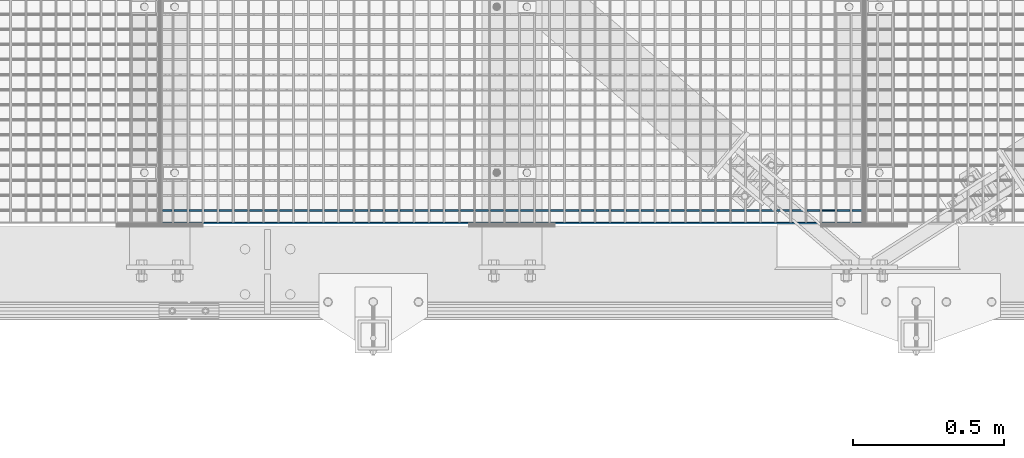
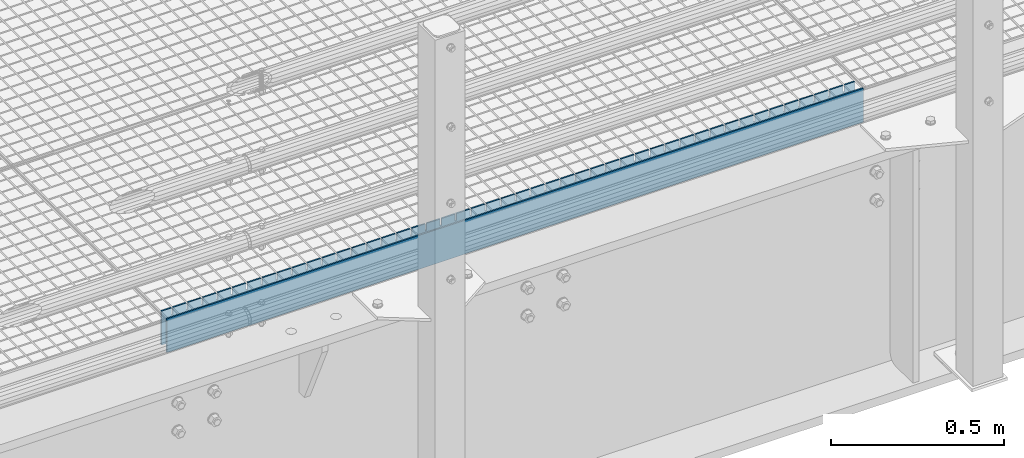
# One storey, part 180 of 1530: 2 beams.
"""IFC2X3 building model written with IfcOpenShell, lengths in millimetres."""

from ifc_helpers import new_model, si_unit, frame, origin_with_axes, place, context, subcontext, project, spatial, faceted_brep, material, type_object, element, save


model = new_model("IFC2X3")

# Units and contexts
model_context = context("Model", 3, precision=1e-05, world=origin_with_axes())
body_context = subcontext(model_context, "Body", "Model", "MODEL_VIEW")
ifc_project = project(units=[si_unit("LENGTHUNIT", "METRE", prefix="MILLI"), si_unit("AREAUNIT", "SQUARE_METRE"), si_unit("VOLUMEUNIT", "CUBIC_METRE"), si_unit("MASSUNIT", "GRAM", prefix="KILO"), si_unit("TIMEUNIT", "SECOND"), si_unit("PLANEANGLEUNIT", "RADIAN"), si_unit("SOLIDANGLEUNIT", "STERADIAN"), si_unit("THERMODYNAMICTEMPERATUREUNIT", "DEGREE_CELSIUS"), si_unit("LUMINOUSINTENSITYUNIT", "LUMEN")], contexts=[model_context])

# Site, building, storey
site_placement = place(None, origin_with_axes())
site = spatial("IfcSite", under=ifc_project, at=site_placement, Name="Brattvåg", CompositionType="ELEMENT")
building_placement = place(site_placement, origin_with_axes())
building = spatial("IfcBuilding", under=site, at=building_placement, Name="Undefined", CompositionType="ELEMENT")
storey_placement = place(building_placement, origin_with_axes())
storey = spatial("IfcBuildingStorey", under=building, at=storey_placement, Name="Undefined", CompositionType="ELEMENT", Elevation=0.0)

# Beams
ifc_material = material(Name="STEEL/S355J2")
beam_type = type_object("IfcBeamType", Name="120*5", PredefinedType="NOTDEFINED")
beam_1_placement = place(storey_placement, frame((7570.01317977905, 202.994873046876, -59.9998626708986), z_axis=(0.0, 0.0, 1.0), x_axis=(-1.0, 1.99999855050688e-09, 0.0)))
element("IfcBeam", 1, at=beam_1_placement, inside=storey, type_object=beam_type, material=ifc_material, Name="GRATING", context=body_context, shape_type="Brep", body=[
    faceted_brep([(83.5790367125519, -2.50000000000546, 60.0000722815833), (83.5790367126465, -2.50000000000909, 35.0001373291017), (83.5790367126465, 2.50022888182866, 35.0001373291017), (83.5790367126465, 2.5, 60.0), (88.5790367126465, -2.50000000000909, 35.0001373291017), (88.5790367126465, 2.50022888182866, 35.0001373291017), (88.5790367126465, -2.50000000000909, 60.0001373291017), (88.5790367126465, 2.5, 60.0), (38.6284370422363, -2.50000000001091, 60.0001373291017), (38.6284370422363, 2.5, 60.0), (38.6284370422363, 2.49999999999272, 35.0001373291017), (38.6284370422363, -2.50000000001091, 35.0001373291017), (33.6284370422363, 2.49999999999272, 35.0001373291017), (33.6284370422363, -2.50000000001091, 35.0001373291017), (33.6284370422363, -2.5, 60.0), (33.6284370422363, 2.5, 60.0), (0.0, 2.5, 60.0), (0.0, -2.5, 60.0), (0.0, -2.5, -60.0), (0.0, 2.5, -60.0), (2319.99865722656, 2.5, -60.0), (2319.99865722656, -2.5, -60.0), (2319.99865722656, -2.5, 60.0), (2319.99865722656, 2.5, 60.0), (2286.37871932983, 2.5, 60.0), (2286.37871932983, -2.50000000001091, 60.0001373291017), (2286.37871932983, 2.49999999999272, 35.0001373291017), (2286.37871932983, -2.50000000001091, 35.0001373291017), (2281.37871932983, 2.49999999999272, 35.0001373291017), (2281.37871932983, -2.50000000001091, 35.0001373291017), (2281.37871932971, -2.50000000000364, 60.0000634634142), (2281.37871932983, 2.5, 60.0), (2236.42859649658, 2.5, 60.0), (2236.42859649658, -2.50000000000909, 60.0001373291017), (2236.42859649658, 2.50022888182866, 35.0001373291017), (2236.42859649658, -2.50000000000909, 35.0001373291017), (2231.42859649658, 2.50022888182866, 35.0001373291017), (2231.42859649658, -2.50000000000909, 35.0001373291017), (2231.42859649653, -2.50000000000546, 60.0000910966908), (2231.42859649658, 2.5, 60.0), (2186.47847366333, 2.5, 60.0), (2186.47847366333, -2.50000000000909, 60.0001373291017), (2186.47847366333, 2.50022888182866, 35.0001373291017), (2186.47847366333, -2.50000000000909, 35.0001373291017), (2181.47847366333, 2.50022888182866, 35.0001373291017), (2181.47847366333, -2.50000000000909, 35.0001373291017), (2181.47847366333, -2.5, 60.0), (2181.47847366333, 2.5, 60.0), (2136.52882766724, 2.5, 60.0), (2136.52882766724, -2.50000000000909, 60.0001373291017), (2136.52882766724, 2.50022888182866, 35.0001373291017), (2136.52882766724, -2.50000000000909, 35.0001373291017), (2131.52882766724, 2.50022888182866, 35.0001373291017), (2131.52882766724, -2.50000000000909, 35.0001373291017), (2131.52882766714, -2.50000000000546, 60.0000722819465), (2131.52882766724, 2.5, 60.0), (2086.57870483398, 2.5, 60.0), (2086.57870483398, -2.50000000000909, 60.0001373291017), (2086.57870483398, 2.50022888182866, 35.0001373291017), (2086.57870483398, -2.50000000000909, 35.0001373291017), (2081.57870483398, 2.50022888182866, 35.0001373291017), (2081.57870483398, -2.50000000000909, 35.0001373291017), (2081.57870483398, -2.5, 60.0), (2081.57870483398, 2.5, 60.0), (2036.62858200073, 2.5, 60.0), (2036.62858200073, -2.50000000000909, 60.0001373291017), (2036.62858200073, 2.50022888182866, 35.0001373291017), (2036.62858200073, -2.50000000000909, 35.0001373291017), (2031.62858200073, 2.50022888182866, 35.0001373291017), (2031.62858200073, -2.50000000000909, 35.0001373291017), (2031.62858200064, -2.50000000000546, 60.0000722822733), (2031.62858200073, 2.5, 60.0), (1986.67845916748, 2.5, 60.0), (1986.67845916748, -2.50000000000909, 60.0001373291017), (1986.67845916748, 2.50022888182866, 35.0001373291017), (1986.67845916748, -2.50000000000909, 35.0001373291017), (1981.67845916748, 2.50022888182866, 35.0001373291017), (1981.67845916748, -2.50000000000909, 35.0001373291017), (1981.67845916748, -2.5, 60.0), (1981.67845916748, 2.5, 60.0), (1936.72881317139, 2.5, 60.0), (1936.72881317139, -2.50000000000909, 60.0001373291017), (1936.72881317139, 2.50022888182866, 35.0001373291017), (1936.72881317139, -2.50000000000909, 35.0001373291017), (1931.72881317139, 2.50022888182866, 35.0001373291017), (1931.72881317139, -2.50000000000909, 35.0001373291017), (1931.72881317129, -2.50000000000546, 60.0000722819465), (1931.72881317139, 2.5, 60.0), (1886.77869033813, 2.5, 60.0), (1886.77869033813, -2.50000000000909, 60.0001373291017), (1886.77869033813, 2.50022888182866, 35.0001373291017), (1886.77869033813, -2.50000000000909, 35.0001373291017), (1881.77869033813, 2.50022888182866, 35.0001373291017), (1881.77869033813, -2.50000000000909, 35.0001373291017), (1881.77869033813, -2.5, 60.0), (1881.77869033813, 2.5, 60.0), (1836.82856750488, 2.5, 60.0), (1836.82856750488, -2.50000000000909, 60.0001373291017), (1836.82856750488, 2.50022888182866, 35.0001373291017), (1836.82856750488, -2.50000000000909, 35.0001373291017), (1831.82856750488, 2.50022888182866, 35.0001373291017), (1831.82856750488, -2.50000000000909, 35.0001373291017), (1831.82856750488, -2.5, 60.0), (1831.82856750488, 2.5, 60.0), (1786.87892150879, 2.5, 60.0), (1786.87892150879, -2.50000000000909, 60.0001373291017), (1786.87892150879, 2.50022888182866, 35.0001373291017), (1786.87892150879, -2.50000000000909, 35.0001373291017), (1781.87892150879, 2.50022888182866, 35.0001373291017), (1781.87892150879, -2.50000000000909, 35.0001373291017), (1781.87892150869, -2.50000000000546, 60.0000722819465), (1781.87892150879, 2.5, 60.0), (1736.92879867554, 2.5, 60.0), (1736.92879867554, -2.50000000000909, 60.0001373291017), (1736.92879867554, 2.50022888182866, 35.0001373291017), (1736.92879867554, -2.50000000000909, 35.0001373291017), (1731.92879867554, 2.50022888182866, 35.0001373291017), (1731.92879867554, -2.50000000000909, 35.0001373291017), (1731.92879867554, -2.5, 60.0), (1731.92879867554, 2.5, 60.0), (1686.97867584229, 2.5, 60.0), (1686.97867584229, -2.50000000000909, 60.0001373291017), (1686.97867584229, 2.50022888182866, 35.0001373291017), (1686.97867584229, -2.50000000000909, 35.0001373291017), (1681.97867584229, 2.50022888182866, 35.0001373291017), (1681.97867584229, -2.50000000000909, 35.0001373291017), (1681.97867584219, -2.50000000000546, 60.0000722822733), (1681.97867584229, 2.5, 60.0), (1637.02855300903, 2.5, 60.0), (1637.02855300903, -2.50000000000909, 60.0001373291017), (1637.02855300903, 2.50022888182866, 35.0001373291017), (1637.02855300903, -2.50000000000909, 35.0001373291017), (1632.02855300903, 2.50022888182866, 35.0001373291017), (1632.02855300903, -2.50000000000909, 35.0001373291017), (1632.02855300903, -2.5, 60.0), (1632.02855300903, 2.5, 60.0), (1587.07890701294, 2.5, 60.0), (1587.07890701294, -2.50000000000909, 60.0001373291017), (1587.07890701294, 2.50022888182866, 35.0001373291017), (1587.07890701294, -2.50000000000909, 35.0001373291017), (1582.07890701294, 2.50022888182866, 35.0001373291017), (1582.07890701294, -2.50000000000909, 35.0001373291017), (1582.07890701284, -2.50000000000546, 60.0000722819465), (1582.07890701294, 2.5, 60.0), (1537.12878417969, 2.5, 60.0), (1537.12878417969, -2.50000000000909, 60.0001373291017), (1537.12878417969, 2.50022888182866, 35.0001373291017), (1537.12878417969, -2.50000000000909, 35.0001373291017), (1532.12878417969, 2.50022888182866, 35.0001373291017), (1532.12878417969, -2.50000000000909, 35.0001373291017), (1532.12878417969, -2.5, 60.0), (1532.12878417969, 2.5, 60.0), (1487.17866134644, 2.5, 60.0), (1487.17866134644, -2.50000000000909, 60.0001373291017), (1487.17866134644, 2.50022888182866, 35.0001373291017), (1487.17866134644, -2.50000000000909, 35.0001373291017), (1482.17866134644, 2.50022888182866, 35.0001373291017), (1482.17866134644, -2.50000000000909, 35.0001373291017), (1482.17866134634, -2.50000000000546, 60.0000722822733), (1482.17866134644, 2.5, 60.0), (1437.22853851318, 2.5, 60.0), (1437.22853851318, -2.50000000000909, 60.0001373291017), (1437.22853851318, 2.50022888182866, 35.0001373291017), (1437.22853851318, -2.50000000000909, 35.0001373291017), (1432.22853851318, 2.50022888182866, 35.0001373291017), (1432.22853851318, -2.50000000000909, 35.0001373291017), (1432.22853851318, -2.5, 60.0), (1432.22853851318, 2.5, 60.0), (1387.27889251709, 2.5, 60.0), (1387.27889251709, -2.50000000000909, 60.0001373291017), (1387.27889251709, 2.50022888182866, 35.0001373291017), (1387.27889251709, -2.50000000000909, 35.0001373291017), (1382.27889251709, 2.50022888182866, 35.0001373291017), (1382.27889251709, -2.50000000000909, 35.0001373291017), (1382.278892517, -2.50000000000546, 60.0000722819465), (1382.27889251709, 2.5, 60.0), (1337.32876968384, 2.5, 60.0), (1337.32876968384, -2.50000000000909, 60.0001373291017), (1337.32876968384, 2.50022888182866, 35.0001373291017), (1337.32876968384, -2.50000000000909, 35.0001373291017), (1332.32876968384, 2.50022888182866, 35.0001373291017), (1332.32876968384, -2.50000000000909, 35.0001373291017), (1332.32876968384, -2.5, 60.0), (1332.32876968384, 2.5, 60.0), (1287.37864685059, 2.5, 60.0), (1287.37864685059, -2.50000000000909, 60.0001373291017), (1287.37864685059, 2.50022888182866, 35.0001373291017), (1287.37864685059, -2.50000000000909, 35.0001373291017), (1282.37864685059, 2.50022888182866, 35.0001373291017), (1282.37864685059, -2.50000000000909, 35.0001373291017), (1282.37864685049, -2.50000000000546, 60.0000722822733), (1282.37864685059, 2.5, 60.0), (1237.42852401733, 2.5, 60.0), (1237.42852401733, -2.50000000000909, 60.0001373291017), (1237.42852401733, 2.50022888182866, 35.0001373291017), (1237.42852401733, -2.50000000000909, 35.0001373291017), (1232.42852401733, 2.50022888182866, 35.0001373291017), (1232.42852401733, -2.50000000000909, 35.0001373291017), (1232.42852401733, -2.5, 60.0), (1232.42852401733, 2.5, 60.0), (1187.47887802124, 2.5, 60.0), (1187.47887802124, -2.50000000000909, 60.0001373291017), (1187.47887802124, 2.50022888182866, 35.0001373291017), (1187.47887802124, -2.50000000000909, 35.0001373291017), (1182.47887802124, 2.50022888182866, 35.0001373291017), (1182.47887802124, -2.50000000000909, 35.0001373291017), (1182.47887802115, -2.50000000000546, 60.0000722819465), (1182.47887802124, 2.5, 60.0), (1137.52875518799, 2.5, 60.0), (1137.52875518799, -2.50000000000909, 60.0001373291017), (1137.52875518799, 2.50022888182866, 35.0001373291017), (1137.52875518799, -2.50000000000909, 35.0001373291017), (1132.52875518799, 2.50022888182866, 35.0001373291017), (1132.52875518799, -2.50000000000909, 35.0001373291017), (1132.52875518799, -2.5, 60.0), (1132.52875518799, 2.5, 60.0), (1087.57863235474, 2.5, 60.0), (1087.57863235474, -2.50000000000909, 60.0001373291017), (1087.57863235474, 2.50022888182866, 35.0001373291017), (1087.57863235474, -2.50000000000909, 35.0001373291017), (1082.57863235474, 2.50022888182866, 35.0001373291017), (1082.57863235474, -2.50000000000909, 35.0001373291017), (1082.57863235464, -2.50000000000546, 60.0000722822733), (1082.57863235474, 2.5, 60.0), (1037.62850952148, 2.5, 60.0), (1037.62850952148, -2.50000000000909, 60.0001373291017), (1037.62850952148, 2.50022888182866, 35.0001373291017), (1037.62850952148, -2.50000000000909, 35.0001373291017), (1032.62850952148, 2.50022888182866, 35.0001373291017), (1032.62850952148, -2.50000000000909, 35.0001373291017), (1032.62850952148, -2.5, 60.0), (1032.62850952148, 2.5, 60.0), (987.678863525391, 2.5, 60.0), (987.678863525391, -2.50000000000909, 60.0001373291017), (987.678863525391, 2.50022888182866, 35.0001373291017), (987.678863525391, -2.50000000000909, 35.0001373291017), (982.678863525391, 2.50022888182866, 35.0001373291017), (982.678863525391, -2.50000000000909, 35.0001373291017), (982.678863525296, -2.50000000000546, 60.0000722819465), (982.678863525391, 2.5, 60.0), (937.728740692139, 2.5, 60.0), (937.728740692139, -2.50000000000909, 60.0001373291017), (937.728740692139, 2.50022888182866, 35.0001373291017), (937.728740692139, -2.50000000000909, 35.0001373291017), (932.728740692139, 2.50022888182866, 35.0001373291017), (932.728740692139, -2.50000000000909, 35.0001373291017), (932.728740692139, -2.5, 60.0), (932.728740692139, 2.5, 60.0), (887.778617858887, 2.5, 60.0), (887.778617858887, -2.50000000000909, 60.0001373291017), (887.778617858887, 2.50022888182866, 35.0001373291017), (887.778617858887, -2.50000000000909, 35.0001373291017), (882.778617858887, 2.50022888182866, 35.0001373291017), (882.778617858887, -2.50000000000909, 35.0001373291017), (882.778617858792, -2.50000000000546, 60.0000722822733), (882.778617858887, 2.5, 60.0), (837.828495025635, 2.5, 60.0), (837.828495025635, -2.50000000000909, 60.0001373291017), (837.828495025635, 2.50022888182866, 35.0001373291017), (837.828495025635, -2.50000000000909, 35.0001373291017), (832.828495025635, 2.50022888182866, 35.0001373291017), (832.828495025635, -2.50000000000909, 35.0001373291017), (832.828495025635, -2.5, 60.0), (832.828495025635, 2.5, 60.0), (787.878849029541, 2.5, 60.0), (787.878849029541, -2.50000000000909, 60.0001373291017), (787.878849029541, 2.50022888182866, 35.0001373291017), (787.878849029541, -2.50000000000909, 35.0001373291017), (782.878849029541, 2.50022888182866, 35.0001373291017), (782.878849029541, -2.50000000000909, 35.0001373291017), (782.878849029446, -2.50000000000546, 60.0000722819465), (782.878849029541, 2.5, 60.0), (737.928726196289, 2.5, 60.0), (737.928726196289, -2.50000000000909, 60.0001373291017), (737.928726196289, 2.50022888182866, 35.0001373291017), (737.928726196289, -2.50000000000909, 35.0001373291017), (732.928726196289, 2.50022888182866, 35.0001373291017), (732.928726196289, -2.50000000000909, 35.0001373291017), (732.928726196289, -2.5, 60.0), (732.928726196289, 2.5, 60.0), (687.978603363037, 2.5, 60.0), (687.978603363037, -2.50000000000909, 60.0001373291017), (687.978603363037, 2.50022888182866, 35.0001373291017), (687.978603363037, -2.50000000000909, 35.0001373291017), (682.978603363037, 2.50022888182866, 35.0001373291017), (682.978603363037, -2.50000000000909, 35.0001373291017), (682.978603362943, -2.50000000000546, 60.0000722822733), (682.978603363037, 2.5, 60.0), (638.028480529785, 2.5, 60.0), (638.028480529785, -2.50000000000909, 60.0001373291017), (638.028480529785, 2.50022888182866, 35.0001373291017), (638.028480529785, -2.50000000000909, 35.0001373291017), (633.028480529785, 2.50022888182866, 35.0001373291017), (633.028480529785, -2.50000000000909, 35.0001373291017), (633.028480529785, -2.5, 60.0), (633.028480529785, 2.5, 60.0), (588.078834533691, 2.5, 60.0), (588.078834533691, -2.50000000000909, 60.0001373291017), (588.078834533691, 2.50022888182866, 35.0001373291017), (588.078834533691, -2.50000000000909, 35.0001373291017), (583.078834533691, 2.50022888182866, 35.0001373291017), (583.078834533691, -2.50000000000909, 35.0001373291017), (583.078834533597, -2.50000000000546, 60.0000722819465), (583.078834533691, 2.5, 60.0), (538.128711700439, 2.5, 60.0), (538.128711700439, -2.50000000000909, 60.0001373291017), (538.128711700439, 2.50022888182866, 35.0001373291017), (538.128711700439, -2.50000000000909, 35.0001373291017), (533.128711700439, 2.50022888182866, 35.0001373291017), (533.128711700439, -2.50000000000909, 35.0001373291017), (533.128711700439, -2.5, 60.0), (533.128711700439, 2.5, 60.0), (488.178588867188, 2.5, 60.0), (488.178588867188, -2.50000000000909, 60.0001373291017), (488.178588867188, 2.50022888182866, 35.0001373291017), (488.178588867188, -2.50000000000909, 35.0001373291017), (483.178588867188, 2.50022888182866, 35.0001373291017), (483.178588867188, -2.50000000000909, 35.0001373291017), (483.178588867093, -2.50000000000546, 60.0000722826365), (483.178588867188, 2.5, 60.0), (438.228942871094, 2.5, 60.0), (438.228942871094, -2.50000000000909, 60.0001373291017), (438.228942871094, 2.50022888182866, 35.0001373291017), (438.228942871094, -2.50000000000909, 35.0001373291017), (433.228942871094, 2.50022888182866, 35.0001373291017), (433.228942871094, -2.50000000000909, 35.0001373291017), (433.228942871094, -2.5, 60.0), (433.228942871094, 2.5, 60.0), (388.278820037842, 2.5, 60.0), (388.278820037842, -2.50000000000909, 60.0001373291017), (388.278820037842, 2.50022888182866, 35.0001373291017), (388.278820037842, -2.50000000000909, 35.0001373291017), (383.278820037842, 2.50022888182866, 35.0001373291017), (383.278820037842, -2.50000000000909, 35.0001373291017), (383.278820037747, -2.50000000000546, 60.0000722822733), (383.278820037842, 2.5, 60.0), (338.32869720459, 2.5, 60.0), (338.32869720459, -2.50000000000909, 60.0001373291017), (338.32869720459, 2.50022888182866, 35.0001373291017), (338.32869720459, -2.50000000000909, 35.0001373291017), (333.32869720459, 2.50022888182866, 35.0001373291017), (333.32869720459, -2.50000000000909, 35.0001373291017), (333.32869720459, -2.5, 60.0), (333.32869720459, 2.5, 60.0), (288.378574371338, 2.5, 60.0), (288.378574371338, -2.50000000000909, 60.0001373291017), (288.378574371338, 2.50022888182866, 35.0001373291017), (288.378574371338, -2.50000000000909, 35.0001373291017), (283.378574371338, 2.50022888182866, 35.0001373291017), (283.378574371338, -2.50000000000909, 35.0001373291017), (283.378574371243, -2.50000000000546, 60.0000722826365), (283.378574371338, 2.5, 60.0), (238.428928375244, 2.5, 60.0), (238.428928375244, -2.50000000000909, 60.0001373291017), (238.428928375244, 2.50022888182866, 35.0001373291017), (238.428928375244, -2.50000000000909, 35.0001373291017), (233.428928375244, 2.50022888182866, 35.0001373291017), (233.428928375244, -2.50000000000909, 35.0001373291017), (233.428928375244, -2.5, 60.0), (233.428928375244, 2.5, 60.0), (188.478328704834, 2.5, 60.0), (188.478328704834, -2.50000000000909, 60.0001373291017), (188.478328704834, 2.50022888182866, 35.0001373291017), (188.478328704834, -2.50000000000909, 35.0001373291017), (183.478328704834, 2.50022888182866, 35.0001373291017), (183.478328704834, -2.50000000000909, 35.0001373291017), (183.478328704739, -2.50000000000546, 60.0000722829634), (183.478328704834, 2.5, 60.0), (138.52868270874, 2.5, 60.0), (138.52868270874, -2.50000000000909, 60.0001373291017), (138.52868270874, 2.50022888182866, 35.0001373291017), (138.52868270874, -2.50000000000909, 35.0001373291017), (133.52868270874, 2.50022888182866, 35.0001373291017), (133.52868270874, -2.50000000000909, 35.0001373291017), (133.52868270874, -2.5, 60.0), (133.52868270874, 2.5, 60.0)], [[[0, 1, 2, 3]], [[4, 5, 2, 1]], [[6, 7, 5, 4]], [[8, 9, 10, 11]], [[11, 10, 12, 13]], [[14, 13, 12, 15]], [[16, 17, 14, 15]], [[18, 17, 16, 19]], [[18, 19, 20, 21]], [[22, 21, 20, 23]], [[22, 23, 24, 25]], [[25, 24, 26, 27]], [[27, 26, 28, 29]], [[30, 29, 28, 31]], [[32, 33, 30, 31]], [[33, 32, 34, 35]], [[35, 34, 36, 37]], [[38, 37, 36, 39]], [[40, 41, 38, 39]], [[41, 40, 42, 43]], [[43, 42, 44, 45]], [[46, 45, 44, 47]], [[46, 47, 48, 49]], [[49, 48, 50, 51]], [[51, 50, 52, 53]], [[54, 53, 52, 55]], [[56, 57, 54, 55]], [[57, 56, 58, 59]], [[59, 58, 60, 61]], [[62, 61, 60, 63]], [[62, 63, 64, 65]], [[65, 64, 66, 67]], [[67, 66, 68, 69]], [[70, 69, 68, 71]], [[72, 73, 70, 71]], [[73, 72, 74, 75]], [[75, 74, 76, 77]], [[78, 77, 76, 79]], [[78, 79, 80, 81]], [[81, 80, 82, 83]], [[83, 82, 84, 85]], [[86, 85, 84, 87]], [[88, 89, 86, 87]], [[89, 88, 90, 91]], [[91, 90, 92, 93]], [[94, 93, 92, 95]], [[94, 95, 96, 97]], [[97, 96, 98, 99]], [[99, 98, 100, 101]], [[102, 101, 100, 103]], [[102, 103, 104, 105]], [[105, 104, 106, 107]], [[107, 106, 108, 109]], [[110, 109, 108, 111]], [[112, 113, 110, 111]], [[113, 112, 114, 115]], [[115, 114, 116, 117]], [[118, 117, 116, 119]], [[118, 119, 120, 121]], [[121, 120, 122, 123]], [[123, 122, 124, 125]], [[126, 125, 124, 127]], [[128, 129, 126, 127]], [[129, 128, 130, 131]], [[131, 130, 132, 133]], [[134, 133, 132, 135]], [[134, 135, 136, 137]], [[137, 136, 138, 139]], [[139, 138, 140, 141]], [[142, 141, 140, 143]], [[144, 145, 142, 143]], [[145, 144, 146, 147]], [[147, 146, 148, 149]], [[150, 149, 148, 151]], [[150, 151, 152, 153]], [[153, 152, 154, 155]], [[155, 154, 156, 157]], [[158, 157, 156, 159]], [[160, 161, 158, 159]], [[161, 160, 162, 163]], [[163, 162, 164, 165]], [[166, 165, 164, 167]], [[166, 167, 168, 169]], [[169, 168, 170, 171]], [[171, 170, 172, 173]], [[174, 173, 172, 175]], [[176, 177, 174, 175]], [[177, 176, 178, 179]], [[179, 178, 180, 181]], [[182, 181, 180, 183]], [[182, 183, 184, 185]], [[185, 184, 186, 187]], [[187, 186, 188, 189]], [[190, 189, 188, 191]], [[192, 193, 190, 191]], [[193, 192, 194, 195]], [[195, 194, 196, 197]], [[198, 197, 196, 199]], [[198, 199, 200, 201]], [[201, 200, 202, 203]], [[203, 202, 204, 205]], [[206, 205, 204, 207]], [[208, 209, 206, 207]], [[209, 208, 210, 211]], [[211, 210, 212, 213]], [[214, 213, 212, 215]], [[214, 215, 216, 217]], [[217, 216, 218, 219]], [[219, 218, 220, 221]], [[222, 221, 220, 223]], [[224, 225, 222, 223]], [[225, 224, 226, 227]], [[227, 226, 228, 229]], [[230, 229, 228, 231]], [[230, 231, 232, 233]], [[233, 232, 234, 235]], [[235, 234, 236, 237]], [[238, 237, 236, 239]], [[240, 241, 238, 239]], [[241, 240, 242, 243]], [[243, 242, 244, 245]], [[246, 245, 244, 247]], [[246, 247, 248, 249]], [[249, 248, 250, 251]], [[251, 250, 252, 253]], [[254, 253, 252, 255]], [[256, 257, 254, 255]], [[257, 256, 258, 259]], [[259, 258, 260, 261]], [[262, 261, 260, 263]], [[262, 263, 264, 265]], [[265, 264, 266, 267]], [[267, 266, 268, 269]], [[270, 269, 268, 271]], [[272, 273, 270, 271]], [[273, 272, 274, 275]], [[275, 274, 276, 277]], [[278, 277, 276, 279]], [[278, 279, 280, 281]], [[281, 280, 282, 283]], [[283, 282, 284, 285]], [[286, 285, 284, 287]], [[288, 289, 286, 287]], [[289, 288, 290, 291]], [[291, 290, 292, 293]], [[294, 293, 292, 295]], [[294, 295, 296, 297]], [[297, 296, 298, 299]], [[299, 298, 300, 301]], [[302, 301, 300, 303]], [[304, 305, 302, 303]], [[305, 304, 306, 307]], [[307, 306, 308, 309]], [[310, 309, 308, 311]], [[310, 311, 312, 313]], [[313, 312, 314, 315]], [[315, 314, 316, 317]], [[318, 317, 316, 319]], [[320, 321, 318, 319]], [[321, 320, 322, 323]], [[323, 322, 324, 325]], [[326, 325, 324, 327]], [[326, 327, 328, 329]], [[329, 328, 330, 331]], [[331, 330, 332, 333]], [[334, 333, 332, 335]], [[336, 337, 334, 335]], [[337, 336, 338, 339]], [[339, 338, 340, 341]], [[342, 341, 340, 343]], [[342, 343, 344, 345]], [[345, 344, 346, 347]], [[347, 346, 348, 349]], [[350, 349, 348, 351]], [[352, 353, 350, 351]], [[353, 352, 354, 355]], [[355, 354, 356, 357]], [[358, 357, 356, 359]], [[358, 359, 360, 361]], [[361, 360, 362, 363]], [[363, 362, 364, 365]], [[366, 365, 364, 367]], [[368, 369, 366, 367]], [[369, 368, 370, 371]], [[371, 370, 372, 373]], [[374, 373, 372, 375]], [[1, 0, 8, 11, 13, 14, 17, 18, 21, 22, 25, 27, 29, 30, 33, 35, 37, 38, 41, 43, 45, 46, 49, 51, 53, 54, 57, 59, 61, 62, 65, 67, 69, 70, 73, 75, 77, 78, 81, 83, 85, 86, 89, 91, 93, 94, 97, 99, 101, 102, 105, 107, 109, 110, 113, 115, 117, 118, 121, 123, 125, 126, 129, 131, 133, 134, 137, 139, 141, 142, 145, 147, 149, 150, 153, 155, 157, 158, 161, 163, 165, 166, 169, 171, 173, 174, 177, 179, 181, 182, 185, 187, 189, 190, 193, 195, 197, 198, 201, 203, 205, 206, 209, 211, 213, 214, 217, 219, 221, 222, 225, 227, 229, 230, 233, 235, 237, 238, 241, 243, 245, 246, 249, 251, 253, 254, 257, 259, 261, 262, 265, 267, 269, 270, 273, 275, 277, 278, 281, 283, 285, 286, 289, 291, 293, 294, 297, 299, 301, 302, 305, 307, 309, 310, 313, 315, 317, 318, 321, 323, 325, 326, 329, 331, 333, 334, 337, 339, 341, 342, 345, 347, 349, 350, 353, 355, 357, 358, 361, 363, 365, 366, 369, 371, 373, 374, 6, 4]], [[9, 8, 0, 3]], [[375, 372, 370, 368, 367, 364, 362, 360, 359, 356, 354, 352, 351, 348, 346, 344, 343, 340, 338, 336, 335, 332, 330, 328, 327, 324, 322, 320, 319, 316, 314, 312, 311, 308, 306, 304, 303, 300, 298, 296, 295, 292, 290, 288, 287, 284, 282, 280, 279, 276, 274, 272, 271, 268, 266, 264, 263, 260, 258, 256, 255, 252, 250, 248, 247, 244, 242, 240, 239, 236, 234, 232, 231, 228, 226, 224, 223, 220, 218, 216, 215, 212, 210, 208, 207, 204, 202, 200, 199, 196, 194, 192, 191, 188, 186, 184, 183, 180, 178, 176, 175, 172, 170, 168, 167, 164, 162, 160, 159, 156, 154, 152, 151, 148, 146, 144, 143, 140, 138, 136, 135, 132, 130, 128, 127, 124, 122, 120, 119, 116, 114, 112, 111, 108, 106, 104, 103, 100, 98, 96, 95, 92, 90, 88, 87, 84, 82, 80, 79, 76, 74, 72, 71, 68, 66, 64, 63, 60, 58, 56, 55, 52, 50, 48, 47, 44, 42, 40, 39, 36, 34, 32, 31, 28, 26, 24, 23, 20, 19, 16, 15, 12, 10, 9, 3, 2, 5, 7]], [[374, 375, 7, 6]]]),
])
beam_2_placement = place(storey_placement, frame((5245.01067138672, 161.498687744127, -59.9998626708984), z_axis=(0.0, 0.0, 1.0), x_axis=(1.0, 0.0, 0.0)))
element("IfcBeam", 2, at=beam_2_placement, inside=storey, type_object=beam_type, material=ifc_material, Name="GRATING", context=body_context, shape_type="Brep", body=[
    faceted_brep([(0.0, 2.5, -60.0), (0.0, 2.5, 60.0), (2329.99832153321, 2.5, 60.0), (2329.99832153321, 2.5, -60.0), (0.0, -2.5, 60.0), (2329.99832153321, -2.5, 60.0), (0.0, -2.5, -60.0), (2329.99832153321, -2.5, -60.0)], [[[0, 1, 2, 3]], [[1, 4, 5, 2]], [[4, 6, 7, 5]], [[6, 0, 3, 7]], [[5, 7, 3, 2]], [[6, 4, 1, 0]]]),
])

save(model, "model.ifc")
